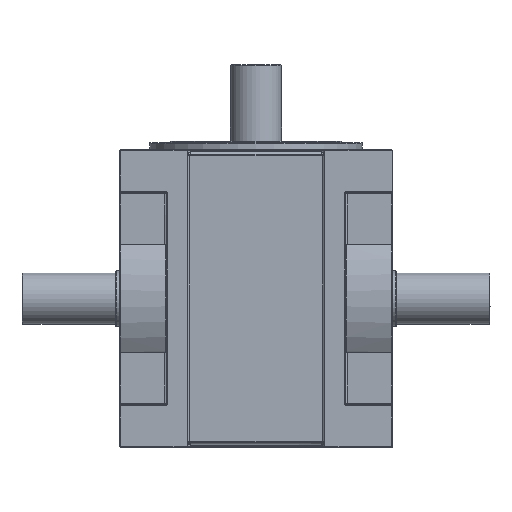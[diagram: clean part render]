
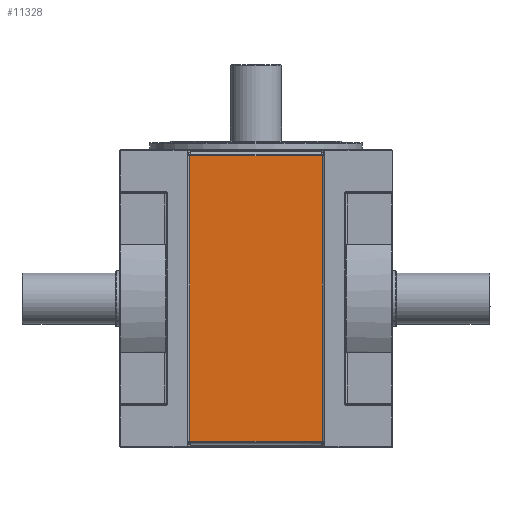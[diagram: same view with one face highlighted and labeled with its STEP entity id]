
A CAD part, front view. The second image highlights one B-rep face of the part: STEP entity #11328.
In plain terms, the highlighted planar face has unit normal (0, -1, 0).
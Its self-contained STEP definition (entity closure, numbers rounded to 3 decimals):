
#3421=CARTESIAN_POINT('',(-78.,-244.,-343.));
#3439=CARTESIAN_POINT('',(-78.,-244.,
-7.));
#3541=DIRECTION('',(-1.,0.,0.));
#3542=VECTOR('',#3541,156.);
#3543=CARTESIAN_POINT('',(78.,-244.,-343.));
#3544=LINE('',#3543,#3542);
#3545=DIRECTION('',(0.,0.,1.));
#3546=VECTOR('',#3545,336.);
#3547=CARTESIAN_POINT('',(-78.,-244.,-343.));
#3548=LINE('',#3547,#3546);
#3549=DIRECTION('',(-1.,0.,0.));
#3550=VECTOR('',#3549,156.);
#3551=CARTESIAN_POINT('',(78.,-244.,
-7.));
#3552=LINE('',#3551,#3550);
#3553=DIRECTION('',(0.,0.,-1.));
#3554=VECTOR('',#3553,336.);
#3555=CARTESIAN_POINT('',(78.,-244.,
-7.));
#3556=LINE('',#3555,#3554);
#5283=VERTEX_POINT('',#3421);
#5288=CARTESIAN_POINT('',(78.,-244.,-343.));
#5289=VERTEX_POINT('',#5288);
#5293=VERTEX_POINT('',#3439);
#5294=CARTESIAN_POINT('',(78.,-244.,
-7.));
#5295=VERTEX_POINT('',#5294);
#11316=CARTESIAN_POINT('',(0.,-244.,0.));
#11317=DIRECTION('',(0.,-1.,0.));
#11318=DIRECTION('',(-1.,0.,0.));
#11319=AXIS2_PLACEMENT_3D('',#11316,#11317,#11318);
#11320=PLANE('',#11319);
#11322=ORIENTED_EDGE('',*,*,#11321,.T.);
#11323=ORIENTED_EDGE('',*,*,#11044,.T.);
#11324=ORIENTED_EDGE('',*,*,#11308,.F.);
#11325=ORIENTED_EDGE('',*,*,#10586,.T.);
#11326=EDGE_LOOP('',(#11322,#11323,#11324,#11325));
#11327=FACE_OUTER_BOUND('',#11326,.F.);
#10586=EDGE_CURVE('',#5295,#5289,#3556,.T.);
#11044=EDGE_CURVE('',#5283,#5293,#3548,.T.);
#11308=EDGE_CURVE('',#5295,#5293,#3552,.T.);
#11321=EDGE_CURVE('',#5289,#5283,#3544,.T.);
#11328=ADVANCED_FACE('',(#11327),#11320,.T.);
